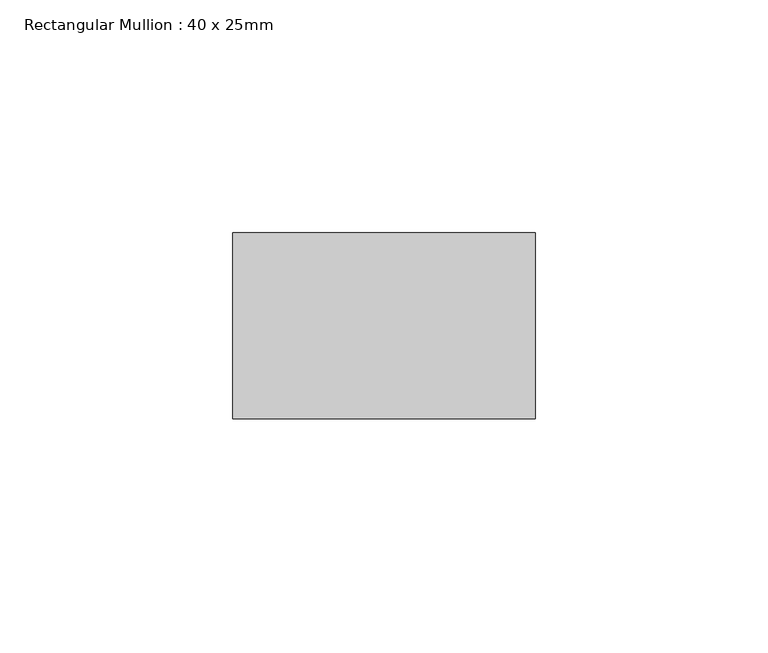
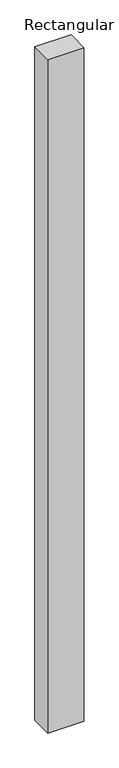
"""IFC4 building model written with IfcOpenShell, lengths in millimetres: member geometry, Rectangular Mullion : 40 x 25mm."""

from ifc_helpers import new_model, si_unit, frame, origin, place, context, project, spatial, polyline, outline, extrude, source, transform, mapped, element, save


def rectangular_mullion_40_x_25mm_d0280b3e(model_context):
    return source(origin(), model_context, "Body", "SweptSolid", [
        extrude(outline(polyline([(0.0, -20.0), (0.0, -60.0), (-65.0, -60.0), (-65.0, -20.0), (0.0, -20.0)])), frame((0.0, 0.0, -1281.2589444), z_axis=(0.0, 0.0, 1.0), x_axis=(1.0, 0.0, 0.0)), (0.0, 0.0, 1.0), 1281.2589444),
    ])


if __name__ == "__main__":
    model = new_model("IFC4")
    model_context = context("Model", 3, world=origin())
    ifc_project = project(units=[si_unit("LENGTHUNIT", "METRE", prefix="MILLI")], contexts=[model_context])
    site = spatial("IfcSite", under=ifc_project)
    building = spatial("IfcBuilding", under=site)
    placement = place(None, origin())
    rectangular_mullion_40_x_25mm_shape = rectangular_mullion_40_x_25mm_d0280b3e(model_context)
    element("IfcMember", 1, ObjectType="Rectangular Mullion : 40 x 25mm", at=placement, inside=building, context=model_context, shape_type="MappedRepresentation", body=[
        mapped(rectangular_mullion_40_x_25mm_shape, transform((0.0, 0.0, 0.0), x_axis=(1.0, 0.0, 0.0), y_axis=(0.0, 1.0, 0.0), z_axis=(0.0, 0.0, 1.0))),
    ])
    save(model, "model.ifc")
